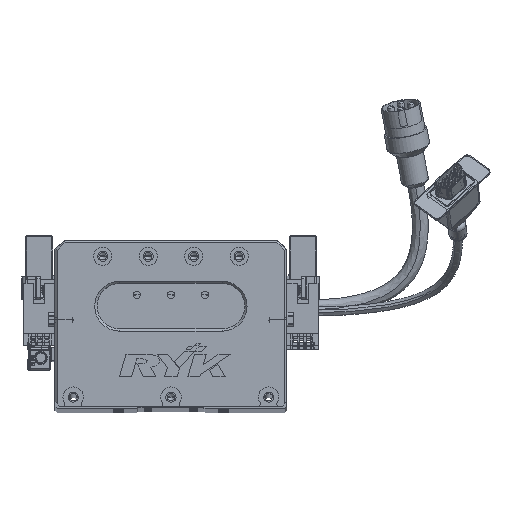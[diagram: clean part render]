
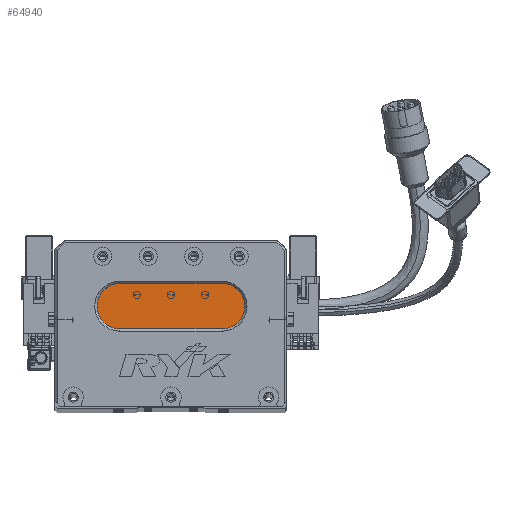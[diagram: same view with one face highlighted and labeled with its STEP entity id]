
A CAD part, top view. The second image highlights one B-rep face of the part: STEP entity #64940.
In plain terms, the highlighted planar face has unit normal (0, 0, 1) as drawn and (0, 0, -1) by its records, which use the part's own axes.
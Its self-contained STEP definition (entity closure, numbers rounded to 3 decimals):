
#106 = VERTEX_POINT ( 'NONE', #61240 ) ;
#3338 = DIRECTION ( 'NONE',  ( -1., 0., 0. ) ) ;
#3985 = LINE ( 'NONE', #31821, #38036 ) ;
#4832 = EDGE_LOOP ( 'NONE', ( #30053, #69394, #11352, #8108, #50716 ) ) ;
#5402 = CARTESIAN_POINT ( 'NONE',  ( 73.5, 34., 13. ) ) ;
#8108 = ORIENTED_EDGE ( 'NONE', *, *, #15863, .T. ) ;
#8811 = EDGE_CURVE ( 'NONE', #15628, #55441, #16572, .T. ) ;
#11352 = ORIENTED_EDGE ( 'NONE', *, *, #55440, .T. ) ;
#12685 = VERTEX_POINT ( 'NONE', #56201 ) ;
#13782 = DIRECTION ( 'NONE',  ( -1., 0., 0. ) ) ;
#14350 = EDGE_CURVE ( 'NONE', #12685, #22254, #3985, .T. ) ;
#14838 = DIRECTION ( 'NONE',  ( 0., 0., -1. ) ) ;
#15628 = VERTEX_POINT ( 'NONE', #60433 ) ;
#15704 = AXIS2_PLACEMENT_3D ( 'NONE', #58354, #14838, #53134 ) ;
#15863 = EDGE_CURVE ( 'NONE', #106, #12685, #26978, .T. ) ;
#16572 = LINE ( 'NONE', #5402, #43823 ) ;
#18827 = AXIS2_PLACEMENT_3D ( 'NONE', #57762, #42330, #3338 ) ;
#19649 = CIRCLE ( 'NONE', #35149, 10. ) ;
#22254 = VERTEX_POINT ( 'NONE', #58918 ) ;
#22587 = DIRECTION ( 'NONE',  ( 0., 0., -1. ) ) ;
#22817 = DIRECTION ( 'NONE',  ( -1., 0., 0. ) ) ;
#26978 = CIRCLE ( 'NONE', #18827, 10. ) ;
#30053 = ORIENTED_EDGE ( 'NONE', *, *, #54001, .T. ) ;
#31821 = CARTESIAN_POINT ( 'NONE',  ( 73.5, 54., 13. ) ) ;
#34231 = CARTESIAN_POINT ( 'NONE',  ( 73.5, 44., 13. ) ) ;
#35149 = AXIS2_PLACEMENT_3D ( 'NONE', #34231, #22587, #22817 ) ;
#35656 = CARTESIAN_POINT ( 'NONE',  ( 73.5, 44., 13. ) ) ;
#35900 = DIRECTION ( 'NONE',  ( 0., 0., -1. ) ) ;
#38036 = VECTOR ( 'NONE', #53244, 1000. ) ;
#42330 = DIRECTION ( 'NONE',  ( 0., 0., -1. ) ) ;
#43677 = DIRECTION ( 'NONE',  ( -1., 0., 0. ) ) ;
#43823 = VECTOR ( 'NONE', #43677, 1000. ) ;
#45786 = CIRCLE ( 'NONE', #15704, 10. ) ;
#50534 = FACE_OUTER_BOUND ( 'NONE', #4832, .T. ) ;
#50716 = ORIENTED_EDGE ( 'NONE', *, *, #14350, .T. ) ;
#51632 = PLANE ( 'NONE',  #66885 ) ;
#53134 = DIRECTION ( 'NONE',  ( -1., 0., 0. ) ) ;
#53244 = DIRECTION ( 'NONE',  ( 1., 0., 0. ) ) ;
#54001 = EDGE_CURVE ( 'NONE', #22254, #15628, #19649, .T. ) ;
#55441 = VERTEX_POINT ( 'NONE', #58580 ) ;
#55440 = EDGE_CURVE ( 'NONE', #55441, #106, #45786, .T. ) ;
#56201 = CARTESIAN_POINT ( 'NONE',  ( 28.5, 54., 13. ) ) ;
#57762 = CARTESIAN_POINT ( 'NONE',  ( 28.5, 44., 13. ) ) ;
#58354 = CARTESIAN_POINT ( 'NONE',  ( 28.5, 44., 13. ) ) ;
#58580 = CARTESIAN_POINT ( 'NONE',  ( 28.5, 34., 13. ) ) ;
#58918 = CARTESIAN_POINT ( 'NONE',  ( 73.5, 54., 13. ) ) ;
#60433 = CARTESIAN_POINT ( 'NONE',  ( 73.5, 34., 13. ) ) ;
#61240 = CARTESIAN_POINT ( 'NONE',  ( 18.5, 44., 13. ) ) ;
#64940 = ADVANCED_FACE ( 'NONE', ( #50534 ), #51632, .T. ) ;
#66885 = AXIS2_PLACEMENT_3D ( 'NONE', #35656, #35900, #13782 ) ;
#69394 = ORIENTED_EDGE ( 'NONE', *, *, #8811, .T. ) ;
